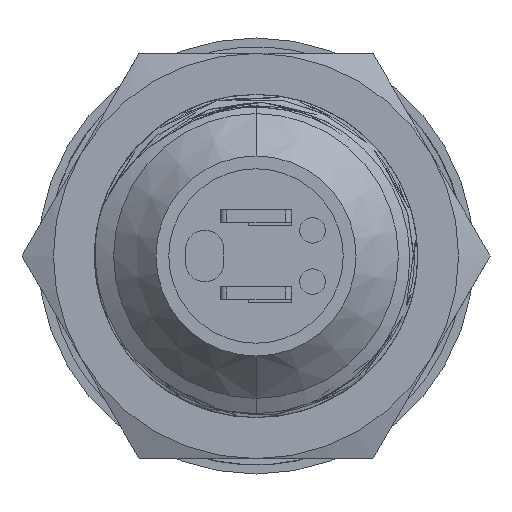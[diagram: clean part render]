
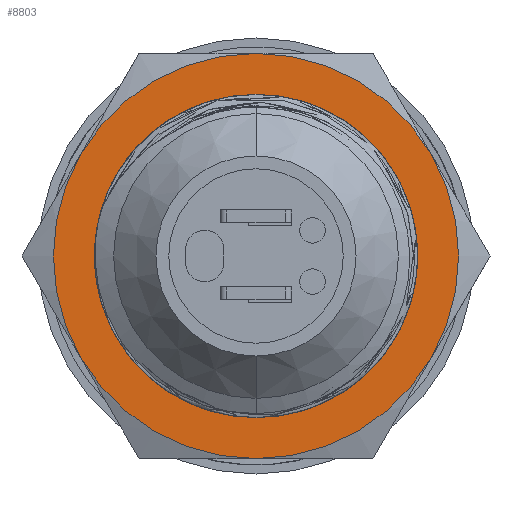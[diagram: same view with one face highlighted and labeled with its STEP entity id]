
A CAD part, left-side view. The second image highlights one B-rep face of the part: STEP entity #8803.
In plain terms, the highlighted planar face has unit normal (-1, 0, 0) as drawn and (0, 0, 1) by its records, which use the part's own axes.
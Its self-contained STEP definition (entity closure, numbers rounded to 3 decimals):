
#171 = CIRCLE ( 'NONE', #14487, 7.898 ) ;
#258 = EDGE_CURVE ( 'NONE', #13854, #8461, #2528, .T. ) ;
#512 = ORIENTED_EDGE ( 'NONE', *, *, #833, .T. ) ;
#610 = VERTEX_POINT ( 'NONE', #3417 ) ;
#833 = EDGE_CURVE ( 'NONE', #2838, #610, #171, .T. ) ;
#1208 = CARTESIAN_POINT ( 'NONE',  ( 7.898, 0., 1.5 ) ) ;
#1639 = CARTESIAN_POINT ( 'NONE',  ( 6.054, 0., 1.5 ) ) ;
#1715 = ORIENTED_EDGE ( 'NONE', *, *, #15753, .T. ) ;
#1898 = CARTESIAN_POINT ( 'NONE',  ( 0., 0., 1.5 ) ) ;
#2528 = CIRCLE ( 'NONE', #11059, 6.054 ) ;
#2838 = VERTEX_POINT ( 'NONE', #1208 ) ;
#2893 = DIRECTION ( 'NONE',  ( 0., 0., 1. ) ) ;
#3417 = CARTESIAN_POINT ( 'NONE',  ( -7.898, 0., 1.5 ) ) ;
#4393 = DIRECTION ( 'NONE',  ( 0., 0., -1. ) ) ;
#4637 = CARTESIAN_POINT ( 'NONE',  ( 0., 0., 1.5 ) ) ;
#4657 = EDGE_CURVE ( 'NONE', #610, #2838, #12714, .T. ) ;
#5217 = AXIS2_PLACEMENT_3D ( 'NONE', #16046, #11100, #12110 ) ;
#5869 = ORIENTED_EDGE ( 'NONE', *, *, #258, .T. ) ;
#6492 = CARTESIAN_POINT ( 'NONE',  ( 0., 0., 1.5 ) ) ;
#7131 = DIRECTION ( 'NONE',  ( 0., 0., 1. ) ) ;
#7455 = CARTESIAN_POINT ( 'NONE',  ( 0., 0., 1.5 ) ) ;
#7742 = DIRECTION ( 'NONE',  ( 0., 0., -1. ) ) ;
#8461 = VERTEX_POINT ( 'NONE', #15555 ) ;
#8803 = ADVANCED_FACE ( 'NONE', ( #14637, #11880 ), #13641, .T. ) ;
#8925 = DIRECTION ( 'NONE',  ( 1., 0., 0. ) ) ;
#9424 = EDGE_LOOP ( 'NONE', ( #15751, #512 ) ) ;
#9751 = AXIS2_PLACEMENT_3D ( 'NONE', #7455, #2893, #8925 ) ;
#10938 = AXIS2_PLACEMENT_3D ( 'NONE', #1898, #4393, #15627 ) ;
#11059 = AXIS2_PLACEMENT_3D ( 'NONE', #6492, #7742, #12825 ) ;
#11100 = DIRECTION ( 'NONE',  ( 0., 0., 1. ) ) ;
#11880 = FACE_OUTER_BOUND ( 'NONE', #9424, .T. ) ;
#12110 = DIRECTION ( 'NONE',  ( 1., 0., 0. ) ) ;
#12714 = CIRCLE ( 'NONE', #5217, 7.898 ) ;
#12825 = DIRECTION ( 'NONE',  ( 1., 0., 0. ) ) ;
#13255 = DIRECTION ( 'NONE',  ( 1., 0., 0. ) ) ;
#13641 = PLANE ( 'NONE',  #9751 ) ;
#13854 = VERTEX_POINT ( 'NONE', #1639 ) ;
#14088 = CIRCLE ( 'NONE', #10938, 6.054 ) ;
#14487 = AXIS2_PLACEMENT_3D ( 'NONE', #4637, #7131, #13255 ) ;
#14637 = FACE_BOUND ( 'NONE', #15012, .T. ) ;
#15012 = EDGE_LOOP ( 'NONE', ( #5869, #1715 ) ) ;
#15555 = CARTESIAN_POINT ( 'NONE',  ( -6.054, 0., 1.5 ) ) ;
#15627 = DIRECTION ( 'NONE',  ( 1., 0., 0. ) ) ;
#15751 = ORIENTED_EDGE ( 'NONE', *, *, #4657, .T. ) ;
#15753 = EDGE_CURVE ( 'NONE', #8461, #13854, #14088, .T. ) ;
#16046 = CARTESIAN_POINT ( 'NONE',  ( 0., 0., 1.5 ) ) ;
